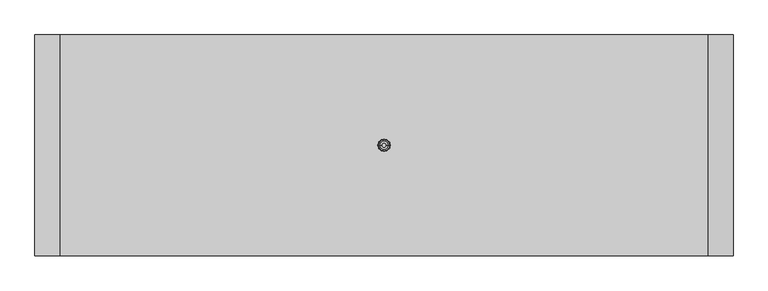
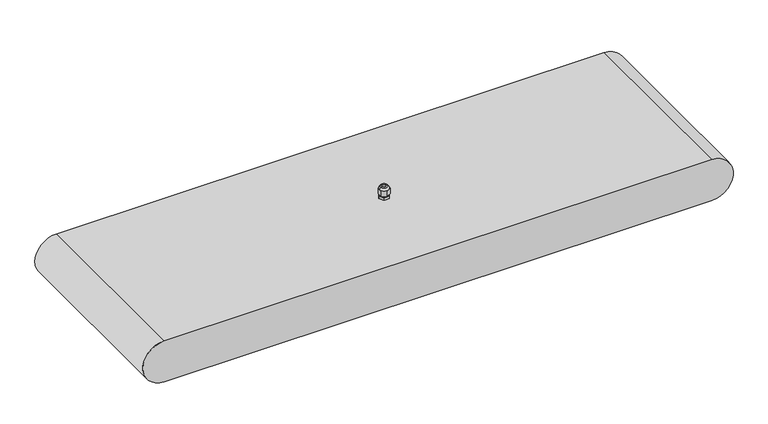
"""IFC4 building model written with IfcOpenShell, lengths in millimetres: light fixture geometry, GENILED_Светильник светодиодный_Element Advanced : Element Advanced 1,0x3 300Вт Матовое закаленное стекло."""

from ifc_helpers import new_model, si_unit, point, frame, origin, origin_with_axes, place, context, project, spatial, polyline, circle_curve, ellipse_curve, trimmed, outline, extrude, source, transform, mapped, element, save
from ifc_brep_helpers import plane_surface, cylinder_surface, revolved_surface, advanced_brep


def light_fixture_ab52292d(model_context):
    return source(origin(), model_context, "Body", "SolidModel", [
        advanced_brep(
        [(5.85, 0.0, 95.0120269), (-5.85, 0.0, 95.0120269), (-3.5, 0.0, 95.0120269), (3.5, 0.0, 95.0120269), (8.0, 0.0, 91.0120269), (4.0, 6.9282032, 91.0120269), (-4.0, 6.9282032, 91.0120269), (-8.0, 0.0, 91.0120269), (-4.0, -6.9282032, 91.0120269), (4.0, -6.9282032, 91.0120269), (-3.5, 0.0, 91.0120269), (3.5, 0.0, 91.0120269), (8.0, 4.1231056, 91.0120269), (7.5707142, 4.8666504, 91.0120269), (0.4292858, 8.989756, 91.0120269), (-0.4292858, 8.989756, 91.0120269), (-7.5707142, 4.8666504, 91.0120269), (-8.0, 4.1231056, 91.0120269), (-8.0, -4.1231056, 91.0120269), (-7.5707142, -4.8666504, 91.0120269), (-0.4292858, -8.989756, 91.0120269), (0.4292858, -8.989756, 91.0120269), (7.5707142, -4.8666504, 91.0120269), (8.0, -4.1231056, 91.0120269), (0.4292858, 8.989756, 81.6), (7.5707142, 4.8666504, 81.6), (8.0, 4.1231056, 81.6), (8.0, -4.1231056, 81.6), (7.5707142, -4.8666504, 81.6), (0.4292858, -8.989756, 81.6), (-0.4292858, -8.989756, 81.6), (-7.5707142, -4.8666504, 81.6), (-8.0, -4.1231056, 81.6), (-8.0, 4.1231056, 81.6), (-7.5707142, 4.8666504, 81.6), (-0.4292858, 8.989756, 81.6), (-7.25, 0.0, 81.6), (7.25, 0.0, 81.6), (-7.25, 0.0, 79.6), (7.25, 0.0, 79.6), (-8.989756, -0.4292858, 79.6), (-4.8666504, -7.5707142, 79.6), (-4.1231056, -8.0, 79.6), (4.1231056, -8.0, 79.6), (4.8666504, -7.5707142, 79.6), (8.989756, -0.4292858, 79.6), (9.0, 0.0, 79.6), (8.989756, 0.4292858, 79.6), (4.8666504, 7.5707142, 79.6), (4.1231056, 8.0, 79.6), (-4.1231056, 8.0, 79.6), (-4.8666504, 7.5707142, 79.6), (-8.989756, 0.4292858, 79.6), (-9.0, 0.0, 79.6), (-8.989756, 0.4292858, 75.0), (-4.8666504, 7.5707142, 75.0), (-4.1231056, 8.0, 75.0), (4.1231056, 8.0, 75.0), (4.8666504, 7.5707142, 75.0), (8.989756, 0.4292858, 75.0), (9.0, 0.0, 75.0), (8.989756, -0.4292858, 75.0), (4.8666504, -7.5707142, 75.0), (4.1231056, -8.0, 75.0), (-4.1231056, -8.0, 75.0), (-4.8666504, -7.5707142, 75.0), (-8.989756, -0.4292858, 75.0), (-9.0, 0.0, 75.0)],
        [
            (0, 1, circle_curve(frame((0.0, 0.0, 95.0120269), z_axis=(0.0, 0.0, 1.0), x_axis=(-1.0, 0.0, 0.0)), 5.85)),
            (1, 2),
            (2, 3, circle_curve(frame((0.0, 0.0, 95.0120269), z_axis=(0.0, 0.0, -1.0), x_axis=(-1.0, 0.0, 0.0)), 3.5)),
            (3, 0),
            (1, 0, circle_curve(frame((0.0, 0.0, 95.0120269), z_axis=(0.0, 0.0, 1.0), x_axis=(-1.0, 0.0, 0.0)), 5.85)),
            (3, 2, circle_curve(frame((0.0, 0.0, 95.0120269), z_axis=(0.0, 0.0, -1.0), x_axis=(-1.0, 0.0, 0.0)), 3.5)),
            (0, 4, circle_curve(frame((2.4876149, 0.0, 90.6269324), z_axis=(0.0, 1.0, 0.0), x_axis=(-1.0, 0.0, 0.0)), 5.5258201)),
            (4, 5, circle_curve(frame((0.0, 0.0, 91.0120269), z_axis=(0.0, 0.0, 1.0), x_axis=(-1.0, 0.0, 0.0)), 8.0)),
            (5, 6, circle_curve(frame((0.0, 0.0, 91.0120269), z_axis=(0.0, 0.0, 1.0), x_axis=(-1.0, 0.0, 0.0)), 8.0)),
            (6, 7, circle_curve(frame((0.0, 0.0, 91.0120269), z_axis=(0.0, 0.0, 1.0), x_axis=(-1.0, 0.0, 0.0)), 8.0)),
            (7, 1, circle_curve(frame((-2.4876149, 0.0, 90.6269324), z_axis=(0.0, 1.0, 0.0), x_axis=(1.0, 0.0, 0.0)), 5.5258201)),
            (7, 8, circle_curve(frame((0.0, 0.0, 91.0120269), z_axis=(0.0, 0.0, 1.0), x_axis=(-1.0, 0.0, 0.0)), 8.0)),
            (8, 9, circle_curve(frame((0.0, 0.0, 91.0120269), z_axis=(0.0, 0.0, 1.0), x_axis=(-1.0, 0.0, 0.0)), 8.0)),
            (9, 4, circle_curve(frame((0.0, 0.0, 91.0120269), z_axis=(0.0, 0.0, 1.0), x_axis=(-1.0, 0.0, 0.0)), 8.0)),
            (2, 10),
            (10, 11, circle_curve(frame((0.0, 0.0, 91.0120269), z_axis=(0.0, 0.0, -1.0), x_axis=(-1.0, 0.0, 0.0)), 3.5)),
            (11, 3),
            (11, 10, circle_curve(frame((0.0, 0.0, 91.0120269), z_axis=(0.0, 0.0, -1.0), x_axis=(-1.0, 0.0, 0.0)), 3.5)),
            (4, 12),
            (12, 13, circle_curve(frame((0.0, 0.0, 91.0120269), z_axis=(0.0, 0.0, 1.0), x_axis=(1.0, 0.0, 0.0)), 9.0)),
            (13, 5),
            (5, 14),
            (14, 15, circle_curve(frame((0.0, 0.0, 91.0120269), z_axis=(0.0, 0.0, 1.0), x_axis=(1.0, 0.0, 0.0)), 9.0)),
            (15, 6),
            (6, 16),
            (16, 17, circle_curve(frame((0.0, 0.0, 91.0120269), z_axis=(0.0, 0.0, 1.0), x_axis=(1.0, 0.0, 0.0)), 9.0)),
            (17, 7),
            (7, 18),
            (18, 19, circle_curve(frame((0.0, 0.0, 91.0120269), z_axis=(0.0, 0.0, 1.0), x_axis=(1.0, 0.0, 0.0)), 9.0)),
            (19, 8),
            (8, 20),
            (20, 21, circle_curve(frame((0.0, 0.0, 91.0120269), z_axis=(0.0, 0.0, 1.0), x_axis=(1.0, 0.0, 0.0)), 9.0)),
            (21, 9),
            (9, 22),
            (22, 23, circle_curve(frame((0.0, 0.0, 91.0120269), z_axis=(0.0, 0.0, 1.0), x_axis=(1.0, 0.0, 0.0)), 9.0)),
            (23, 4),
            (24, 25),
            (25, 26, circle_curve(frame((0.0, 0.0, 81.6), z_axis=(0.0, 0.0, -1.0), x_axis=(1.0, 0.0, 0.0)), 9.0)),
            (26, 27),
            (27, 28, circle_curve(frame((0.0, 0.0, 81.6), z_axis=(0.0, 0.0, -1.0), x_axis=(1.0, 0.0, 0.0)), 9.0)),
            (28, 29),
            (29, 30, circle_curve(frame((0.0, 0.0, 81.6), z_axis=(0.0, 0.0, -1.0), x_axis=(1.0, 0.0, 0.0)), 9.0)),
            (30, 31),
            (31, 32, circle_curve(frame((0.0, 0.0, 81.6), z_axis=(0.0, 0.0, -1.0), x_axis=(1.0, 0.0, 0.0)), 9.0)),
            (32, 33),
            (33, 34, circle_curve(frame((0.0, 0.0, 81.6), z_axis=(0.0, 0.0, -1.0), x_axis=(1.0, 0.0, 0.0)), 9.0)),
            (34, 35),
            (35, 24, circle_curve(frame((0.0, 0.0, 81.6), z_axis=(0.0, 0.0, -1.0), x_axis=(1.0, 0.0, 0.0)), 9.0)),
            (36, 37, circle_curve(frame((0.0, 0.0, 81.6), z_axis=(0.0, 0.0, 1.0), x_axis=(1.0, 0.0, 0.0)), 7.25)),
            (37, 36, circle_curve(frame((0.0, 0.0, 81.6), z_axis=(0.0, 0.0, 1.0), x_axis=(1.0, 0.0, 0.0)), 7.25)),
            (15, 35),
            (34, 16),
            (17, 33),
            (32, 18),
            (19, 31),
            (30, 20),
            (21, 29),
            (28, 22),
            (23, 27),
            (26, 12),
            (13, 25),
            (24, 14),
            (36, 38),
            (38, 39, circle_curve(frame((0.0, 0.0, 79.6), z_axis=(0.0, 0.0, 1.0), x_axis=(1.0, 0.0, 0.0)), 7.25)),
            (39, 37),
            (39, 38, circle_curve(frame((0.0, 0.0, 79.6), z_axis=(0.0, 0.0, 1.0), x_axis=(1.0, 0.0, 0.0)), 7.25)),
            (40, 41),
            (41, 42, circle_curve(frame((0.0, 0.0, 79.6), z_axis=(0.0, 0.0, 1.0), x_axis=(1.0, 0.0, 0.0)), 9.0)),
            (42, 43),
            (43, 44, circle_curve(frame((0.0, 0.0, 79.6), z_axis=(0.0, 0.0, 1.0), x_axis=(1.0, 0.0, 0.0)), 9.0)),
            (44, 45),
            (45, 46, circle_curve(frame((0.0, 0.0, 79.6), z_axis=(0.0, 0.0, 1.0), x_axis=(1.0, 0.0, 0.0)), 9.0)),
            (46, 47, circle_curve(frame((0.0, 0.0, 79.6), z_axis=(0.0, 0.0, 1.0), x_axis=(1.0, 0.0, 0.0)), 9.0)),
            (47, 48),
            (48, 49, circle_curve(frame((0.0, 0.0, 79.6), z_axis=(0.0, 0.0, 1.0), x_axis=(1.0, 0.0, 0.0)), 9.0)),
            (49, 50),
            (50, 51, circle_curve(frame((0.0, 0.0, 79.6), z_axis=(0.0, 0.0, 1.0), x_axis=(1.0, 0.0, 0.0)), 9.0)),
            (51, 52),
            (52, 53, circle_curve(frame((0.0, 0.0, 79.6), z_axis=(0.0, 0.0, 1.0), x_axis=(1.0, 0.0, 0.0)), 9.0)),
            (53, 40, circle_curve(frame((0.0, 0.0, 79.6), z_axis=(0.0, 0.0, 1.0), x_axis=(1.0, 0.0, 0.0)), 9.0)),
            (54, 55),
            (55, 56, circle_curve(frame((0.0, 0.0, 75.0), z_axis=(0.0, 0.0, -1.0), x_axis=(1.0, 0.0, 0.0)), 9.0)),
            (56, 57),
            (57, 58, circle_curve(frame((0.0, 0.0, 75.0), z_axis=(0.0, 0.0, -1.0), x_axis=(1.0, 0.0, 0.0)), 9.0)),
            (58, 59),
            (59, 60, circle_curve(frame((0.0, 0.0, 75.0), z_axis=(0.0, 0.0, -1.0), x_axis=(1.0, 0.0, 0.0)), 9.0)),
            (60, 61, circle_curve(frame((0.0, 0.0, 75.0), z_axis=(0.0, 0.0, -1.0), x_axis=(1.0, 0.0, 0.0)), 9.0)),
            (61, 62),
            (62, 63, circle_curve(frame((0.0, 0.0, 75.0), z_axis=(0.0, 0.0, -1.0), x_axis=(1.0, 0.0, 0.0)), 9.0)),
            (63, 64),
            (64, 65, circle_curve(frame((0.0, 0.0, 75.0), z_axis=(0.0, 0.0, -1.0), x_axis=(1.0, 0.0, 0.0)), 9.0)),
            (65, 66),
            (66, 67, circle_curve(frame((0.0, 0.0, 75.0), z_axis=(0.0, 0.0, -1.0), x_axis=(1.0, 0.0, 0.0)), 9.0)),
            (67, 54, circle_curve(frame((0.0, 0.0, 75.0), z_axis=(0.0, 0.0, -1.0), x_axis=(1.0, 0.0, 0.0)), 9.0)),
            (40, 66),
            (65, 41),
            (42, 64),
            (63, 43),
            (44, 62),
            (61, 45),
            (47, 59),
            (58, 48),
            (49, 57),
            (56, 50),
            (51, 55),
            (54, 52),
            (67, 53),
            (46, 60),
        ],
        [
            plane_surface(frame((0.0, 0.0, 95.0120269), z_axis=(0.0, 0.0, 1.0), x_axis=(-1.0, 0.0, 0.0))),
            revolved_surface(trimmed(ellipse_curve(frame((-2.4876149, 0.0, 90.6269324), z_axis=(0.0, -1.0, 0.0), x_axis=(1.0, 0.0, 0.0)), 5.5258201, 5.5258201), [point((-5.85, 0.0, 95.0120269))], [point((-8.0, 0.0, 91.0120269))], True, "CARTESIAN"), (0.0, 0.0, 91.0120269), (0.0, 0.0, -1.0)),
            revolved_surface(polyline([(-3.5, 0.0, 91.0120269), (-3.5, 0.0, 95.0120269)]), (0.0, 0.0, 91.0120269), (0.0, 0.0, -1.0)),
            plane_surface(frame((0.0, 9.2376043, 91.0120269), z_axis=(0.0, 0.0, 1.0000000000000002), x_axis=(-0.8660254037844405, -0.49999999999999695, 0.0))),
            plane_surface(frame((0.0, 9.2376043, 81.6), z_axis=(0.0, 0.0, -1.0000000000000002), x_axis=(0.8660254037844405, 0.49999999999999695, 0.0))),
            plane_surface(frame((0.0, 9.2376043, 91.0120269), z_axis=(-0.49999999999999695, 0.8660254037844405, 0.0), x_axis=(0.0, 0.0, -1.0))),
            plane_surface(frame((-8.0, 4.6188022, 91.0120269), z_axis=(-1.0, 0.0, 0.0), x_axis=(0.0, 0.0, -1.0))),
            plane_surface(frame((-8.0, -4.6188022, 91.0120269), z_axis=(-0.5000000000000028, -0.8660254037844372, 0.0), x_axis=(0.0, 0.0, -1.0))),
            plane_surface(frame((0.0, -9.2376043, 91.0120269), z_axis=(0.49999999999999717, -0.8660254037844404, 0.0), x_axis=(0.0, 0.0, -1.0))),
            plane_surface(frame((8.0, -4.6188022, 91.0120269), z_axis=(1.0, 0.0, 0.0), x_axis=(0.0, 0.0, -1.0))),
            plane_surface(frame((8.0, 4.6188022, 91.0120269), z_axis=(0.5000000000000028, 0.8660254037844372, 0.0), x_axis=(0.0, 0.0, -1.0))),
            cylinder_surface(frame((0.0, 0.0, 79.6), z_axis=(0.0, 0.0, 1.0), x_axis=(1.0, 0.0, 0.0)), 7.25),
            plane_surface(frame((-9.2376043, 0.0, 79.6), z_axis=(0.0, 0.0, 1.0), x_axis=(0.5000000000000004, -0.8660254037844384, 0.0))),
            plane_surface(frame((-9.2376043, 0.0, 75.0), z_axis=(0.0, 0.0, -1.0), x_axis=(-0.5000000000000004, 0.8660254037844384, 0.0))),
            plane_surface(frame((-9.2376043, 0.0, 79.6), z_axis=(-0.8660254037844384, -0.5000000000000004, 0.0), x_axis=(0.0, 0.0, -1.0))),
            plane_surface(frame((-4.6188022, -8.0, 79.6), z_axis=(0.0, -1.0, 0.0), x_axis=(0.0, 0.0, -1.0))),
            plane_surface(frame((4.6188022, -8.0, 79.6), z_axis=(0.866025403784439, -0.49999999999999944, 0.0), x_axis=(0.0, 0.0, -1.0))),
            plane_surface(frame((9.2376043, 0.0, 79.6), z_axis=(0.8660254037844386, 0.5000000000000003, 0.0), x_axis=(0.0, 0.0, -1.0))),
            plane_surface(frame((4.6188022, 8.0, 79.6), z_axis=(0.0, 1.0, 0.0), x_axis=(0.0, 0.0, -1.0))),
            plane_surface(frame((-4.6188022, 8.0, 79.6), z_axis=(-0.8660254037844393, 0.49999999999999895, 0.0), x_axis=(0.0, 0.0, -1.0))),
            cylinder_surface(frame((0.0, 0.0, 75.0), z_axis=(0.0, 0.0, -1.0), x_axis=(1.0, 0.0, 0.0)), 9.0),
        ],
        [
            (0, [[1, 2, 3, 4]]),
            (0, [[-2, 5, -4, 6]]),
            (1, [[-1, 7, 8, 9, 10, 11]]),
            (1, [[-5, -11, 12, 13, 14, -7]]),
            (2, [[-3, 15, 16, 17]]),
            (2, [[-6, -17, 18, -15]]),
            (3, [[-8, 19, 20, 21]]),
            (3, [[-9, 22, 23, 24]]),
            (3, [[-10, 25, 26, 27]]),
            (3, [[-12, 28, 29, 30]]),
            (3, [[-13, 31, 32, 33]]),
            (3, [[-14, 34, 35, 36]]),
            (3, [[-16, -18]]),
            (4, [[37, 38, 39, 40, 41, 42, 43, 44, 45, 46, 47, 48], [49, 50]]),
            (5, [[-25, -24, 51, -47, 52]]),
            (6, [[-27, 53, -45, 54, -28]]),
            (7, [[-30, 55, -43, 56, -31]]),
            (8, [[-34, -33, 57, -41, 58]]),
            (9, [[-36, 59, -39, 60, -19]]),
            (10, [[-21, 61, -37, 62, -22]]),
            (11, [[63, 64, 65, -49]]),
            (11, [[-63, -50, -65, 66]]),
            (12, [[67, 68, 69, 70, 71, 72, 73, 74, 75, 76, 77, 78, 79, 80], [-64, -66]]),
            (13, [[81, 82, 83, 84, 85, 86, 87, 88, 89, 90, 91, 92, 93, 94]]),
            (14, [[-67, 95, -92, 96]]),
            (15, [[-69, 97, -90, 98]]),
            (16, [[-71, 99, -88, 100]]),
            (17, [[-74, 101, -85, 102]]),
            (18, [[-76, 103, -83, 104]]),
            (19, [[-78, 105, -81, 106]]),
            (20, [[-20, -60, -38, -61]]),
            (20, [[-23, -62, -48, -51]]),
            (20, [[-26, -52, -46, -53]]),
            (20, [[-75, -102, -84, -103]]),
            (20, [[-77, -104, -82, -105]]),
            (20, [[107, -79, -106, -94]]),
            (20, [[108, -86, -101, -73]]),
            (20, [[-29, -54, -44, -55]]),
            (20, [[-32, -56, -42, -57]]),
            (20, [[-35, -58, -40, -59]]),
            (20, [[-68, -96, -91, -97]]),
            (20, [[-70, -98, -89, -99]]),
            (20, [[-107, -93, -95, -80]]),
            (20, [[-108, -72, -100, -87]]),
        ],
    ),
        advanced_brep(
        [(475.0, -162.0, 75.0), (-475.0, -162.0, 75.0), (-475.0, -162.0, 0.0), (475.0, -162.0, 0.0), (475.0, 162.0, 75.0), (475.0, 162.0, 0.0), (-475.0, 162.0, 0.0), (-475.0, 162.0, 75.0), (-475.0, 152.0, 0.0), (-475.0, -152.0, 0.0), (475.0, -152.0, 0.0), (475.0, 152.0, 0.0), (475.0, 152.0, 2.0), (475.0, -152.0, 2.0), (-475.0, -152.0, 2.0), (-475.0, 152.0, 2.0)],
        [
            (0, 1),
            (1, 2, circle_curve(frame((-475.0, -162.0, 37.5), z_axis=(0.0, -1.0, 0.0), x_axis=(1.0, 0.0, 0.0)), 37.5)),
            (2, 3),
            (3, 0, circle_curve(frame((475.0, -162.0, 37.5), z_axis=(0.0, -1.0, 0.0), x_axis=(1.0, 0.0, 0.0)), 37.5)),
            (4, 5, circle_curve(frame((475.0, 162.0, 37.5), z_axis=(0.0, 1.0, 0.0), x_axis=(1.0, 0.0, 0.0)), 37.5)),
            (5, 6),
            (6, 7, circle_curve(frame((-475.0, 162.0, 37.5), z_axis=(0.0, 1.0, 0.0), x_axis=(1.0, 0.0, 0.0)), 37.5)),
            (7, 4),
            (0, 4),
            (7, 1),
            (6, 8),
            (8, 9),
            (9, 2),
            (9, 10),
            (10, 3),
            (5, 11),
            (11, 8),
            (10, 11),
            (12, 13),
            (13, 14),
            (14, 15),
            (15, 12),
            (15, 8),
            (11, 12),
            (14, 9),
            (13, 10),
        ],
        [
            plane_surface(frame((-475.0, -162.0, 75.0), z_axis=(0.0, -1.0, 0.0), x_axis=(-1.0, 0.0, 0.0))),
            plane_surface(frame((-475.0, 162.0, 75.0), z_axis=(0.0, 1.0, 0.0), x_axis=(1.0, 0.0, 0.0))),
            plane_surface(frame((475.0, -162.0, 75.0), z_axis=(0.0, 0.0, 1.0), x_axis=(0.0, 1.0, 0.0))),
            cylinder_surface(frame((-475.0, 162.0, 37.5), z_axis=(0.0, -1.0, 0.0), x_axis=(1.0, 0.0, 0.0)), 37.5),
            plane_surface(frame((-475.0, -162.0, 0.0), z_axis=(0.0, 0.0, -1.0), x_axis=(0.0, 1.0, 0.0))),
            cylinder_surface(frame((475.0, 162.0, 37.5), z_axis=(0.0, -1.0, 0.0), x_axis=(1.0, 0.0, 0.0)), 37.5),
            plane_surface(frame((-475.0, 152.0, 2.0), z_axis=(0.0, 0.0, -1.0), x_axis=(-1.0, 0.0, 0.0))),
            plane_surface(frame((475.0, 152.0, 2.0), z_axis=(0.0, -1.0, 0.0), x_axis=(0.0, 0.0, -1.0))),
            plane_surface(frame((-475.0, 152.0, 2.0), z_axis=(1.0, 0.0, 0.0), x_axis=(0.0, 0.0, -1.0))),
            plane_surface(frame((-475.0, -152.0, 2.0), z_axis=(0.0, 1.0, 0.0), x_axis=(0.0, 0.0, -1.0))),
            plane_surface(frame((475.0, -152.0, 2.0), z_axis=(-1.0, 0.0, 0.0), x_axis=(0.0, 0.0, -1.0))),
        ],
        [
            (0, [[1, 2, 3, 4]]),
            (1, [[5, 6, 7, 8]]),
            (2, [[-1, 9, -8, 10]]),
            (3, [[-2, -10, -7, 11, 12, 13]]),
            (4, [[-3, -13, 14, 15]]),
            (4, [[-6, 16, 17, -11]]),
            (5, [[-4, -15, 18, -16, -5, -9]]),
            (6, [[19, 20, 21, 22]]),
            (7, [[-22, 23, -17, 24]]),
            (8, [[-21, 25, -12, -23]]),
            (9, [[-20, 26, -14, -25]]),
            (10, [[-19, -24, -18, -26]]),
        ],
    ),
        extrude(outline(polyline([(475.0, 152.0), (475.0, -152.0), (-475.0, -152.0), (-475.0, 152.0), (475.0, 152.0)])), origin_with_axes(), (0.0, 0.0, 1.0), 2.0),
    ])


if __name__ == "__main__":
    model = new_model("IFC4")
    model_context = context("Model", 3, world=origin())
    ifc_project = project(units=[si_unit("LENGTHUNIT", "METRE", prefix="MILLI")], contexts=[model_context])
    site = spatial("IfcSite", under=ifc_project)
    building = spatial("IfcBuilding", under=site)
    placement = place(None, origin())
    light_fixture_shape = light_fixture_ab52292d(model_context)
    element("IfcLightFixture", 1, ObjectType="GENILED_Светильник светодиодный_Element Advanced : Element Advanced 1,0x3 300Вт Матовое закаленное стекло", at=placement, inside=building, context=model_context, shape_type="MappedRepresentation", body=[
        mapped(light_fixture_shape, transform((0.0, 0.0, 0.0), x_axis=(1.0, 0.0, 0.0), y_axis=(0.0, 1.0, 0.0), z_axis=(0.0, 0.0, 1.0))),
    ])
    save(model, "model.ifc")
